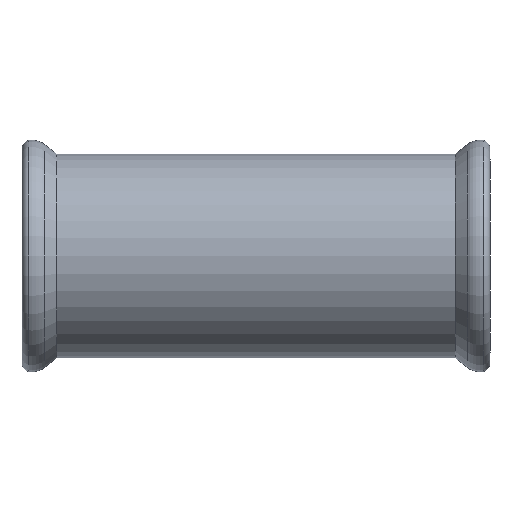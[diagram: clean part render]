
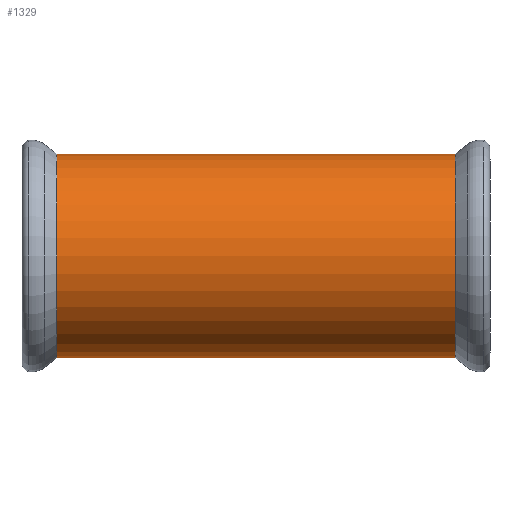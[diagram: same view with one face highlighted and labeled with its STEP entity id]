
A CAD part, front view. The second image highlights one B-rep face of the part: STEP entity #1329.
In plain terms, the highlighted cylindrical face has radius 28.7 mm (diameter 57.4 mm), a partial arc.
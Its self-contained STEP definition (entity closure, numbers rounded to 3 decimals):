
#76 = LINE ( 'NONE', #645, #502 ) ;
#89 = DIRECTION ( 'NONE',  ( -1., 0., 0. ) ) ;
#97 = VERTEX_POINT ( 'NONE', #744 ) ;
#122 = VERTEX_POINT ( 'NONE', #889 ) ;
#160 = DIRECTION ( 'NONE',  ( -1., 0., 0. ) ) ;
#264 = DIRECTION ( 'NONE',  ( -1., 0., 0. ) ) ;
#357 = ORIENTED_EDGE ( 'NONE', *, *, #666, .F. ) ;
#394 = CYLINDRICAL_SURFACE ( 'NONE', #1290, 28.7 ) ;
#502 = VECTOR ( 'NONE', #89, 1000. ) ;
#526 = FACE_OUTER_BOUND ( 'NONE', #942, .T. ) ;
#534 = DIRECTION ( 'NONE',  ( 0., 0., 1. ) ) ;
#539 = VERTEX_POINT ( 'NONE', #1131 ) ;
#544 = DIRECTION ( 'NONE',  ( 0., 0., 1. ) ) ;
#598 = LINE ( 'NONE', #907, #875 ) ;
#645 = CARTESIAN_POINT ( 'NONE',  ( -84.842, 0., 28.7 ) ) ;
#666 = EDGE_CURVE ( 'NONE', #1854, #122, #598, .T. ) ;
#680 = CARTESIAN_POINT ( 'NONE',  ( -56.16, 0., 0. ) ) ;
#744 = CARTESIAN_POINT ( 'NONE',  ( 56.16, 0., 28.7 ) ) ;
#745 = AXIS2_PLACEMENT_3D ( 'NONE', #1227, #1412, #821 ) ;
#810 = ORIENTED_EDGE ( 'NONE', *, *, #1900, .F. ) ;
#821 = DIRECTION ( 'NONE',  ( 0., 0., 1. ) ) ;
#875 = VECTOR ( 'NONE', #160, 1000. ) ;
#889 = CARTESIAN_POINT ( 'NONE',  ( -56.16, 0., -28.7 ) ) ;
#907 = CARTESIAN_POINT ( 'NONE',  ( -84.842, 0., -28.7 ) ) ;
#919 = AXIS2_PLACEMENT_3D ( 'NONE', #680, #1715, #544 ) ;
#942 = EDGE_LOOP ( 'NONE', ( #357, #1898, #1549, #810 ) ) ;
#976 = CARTESIAN_POINT ( 'NONE',  ( -84.842, 0., 0. ) ) ;
#1052 = CIRCLE ( 'NONE', #919, 28.7 ) ;
#1131 = CARTESIAN_POINT ( 'NONE',  ( -56.16, 0., 28.7 ) ) ;
#1183 = CIRCLE ( 'NONE', #745, 28.7 ) ;
#1227 = CARTESIAN_POINT ( 'NONE',  ( 56.16, 0., 0. ) ) ;
#1290 = AXIS2_PLACEMENT_3D ( 'NONE', #976, #264, #534 ) ;
#1329 = ADVANCED_FACE ( 'NONE', ( #526 ), #394, .T. ) ;
#1412 = DIRECTION ( 'NONE',  ( -1., 0., 0. ) ) ;
#1528 = EDGE_CURVE ( 'NONE', #1854, #97, #1183, .T. ) ;
#1549 = ORIENTED_EDGE ( 'NONE', *, *, #1588, .T. ) ;
#1588 = EDGE_CURVE ( 'NONE', #97, #539, #76, .T. ) ;
#1667 = CARTESIAN_POINT ( 'NONE',  ( 56.16, 0., -28.7 ) ) ;
#1715 = DIRECTION ( 'NONE',  ( -1., 0., 0. ) ) ;
#1854 = VERTEX_POINT ( 'NONE', #1667 ) ;
#1898 = ORIENTED_EDGE ( 'NONE', *, *, #1528, .T. ) ;
#1900 = EDGE_CURVE ( 'NONE', #122, #539, #1052, .T. ) ;
